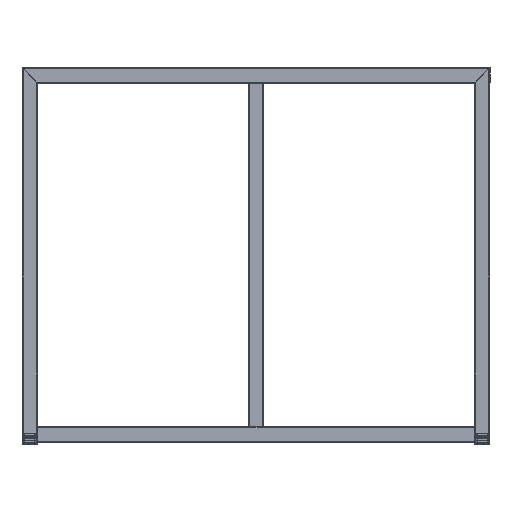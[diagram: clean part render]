
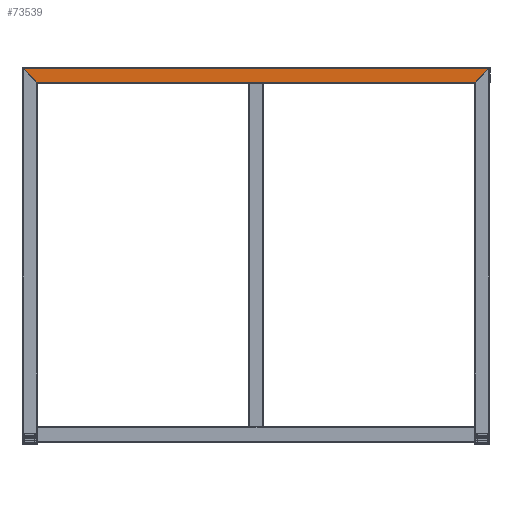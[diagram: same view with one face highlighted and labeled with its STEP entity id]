
A CAD part, left-side view. The second image highlights one B-rep face of the part: STEP entity #73539.
In plain terms, the highlighted planar face has unit normal (-1, 0, 0).
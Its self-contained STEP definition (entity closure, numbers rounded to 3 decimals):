
#2479=FACE_OUTER_BOUND('',#6702,.T.);
#6702=EDGE_LOOP('',(#55100,#55101,#55102,#55103));
#14846=LINE('',#110279,#24764);
#14864=LINE('',#110313,#24782);
#14865=LINE('',#110315,#24783);
#14866=LINE('',#110316,#24784);
#24764=VECTOR('',#90514,10.);
#24782=VECTOR('',#90550,10.);
#24783=VECTOR('',#90551,10.);
#24784=VECTOR('',#90552,10.);
#32270=VERTEX_POINT('',#110276);
#32271=VERTEX_POINT('',#110278);
#32278=VERTEX_POINT('',#110312);
#32279=VERTEX_POINT('',#110314);
#40331=EDGE_CURVE('',#32271,#32270,#14846,.T.);
#40349=EDGE_CURVE('',#32278,#32270,#14864,.T.);
#40350=EDGE_CURVE('',#32279,#32278,#14865,.T.);
#40351=EDGE_CURVE('',#32279,#32271,#14866,.T.);
#55100=ORIENTED_EDGE('',*,*,#40349,.F.);
#55101=ORIENTED_EDGE('',*,*,#40350,.F.);
#55102=ORIENTED_EDGE('',*,*,#40351,.T.);
#55103=ORIENTED_EDGE('',*,*,#40331,.T.);
#65281=PLANE('',#77724);
#73539=ADVANCED_FACE('',(#2479),#65281,.T.);
#77724=AXIS2_PLACEMENT_3D('',#110311,#90548,#90549);
#90514=DIRECTION('',(0.,-1.,0.));
#90548=DIRECTION('center_axis',(-1.,0.,0.));
#90549=DIRECTION('ref_axis',(0.,0.,1.));
#90550=DIRECTION('',(0.,0.707,-0.707));
#90551=DIRECTION('',(0.,-1.,0.));
#90552=DIRECTION('',(0.,-0.707,-0.707));
#110276=CARTESIAN_POINT('',(-1007.,-422.,696.));
#110278=CARTESIAN_POINT('',(-1007.,422.,696.));
#110279=CARTESIAN_POINT('',(-1007.,422.,696.));
#110311=CARTESIAN_POINT('Origin',(-1007.,0.,
709.373));
#110312=CARTESIAN_POINT('',(-1007.,-448.,722.));
#110313=CARTESIAN_POINT('',(-1007.,-448.,722.));
#110314=CARTESIAN_POINT('',(-1007.,448.,722.));
#110315=CARTESIAN_POINT('',(-1007.,448.,722.));
#110316=CARTESIAN_POINT('',(-1007.,448.,722.));
